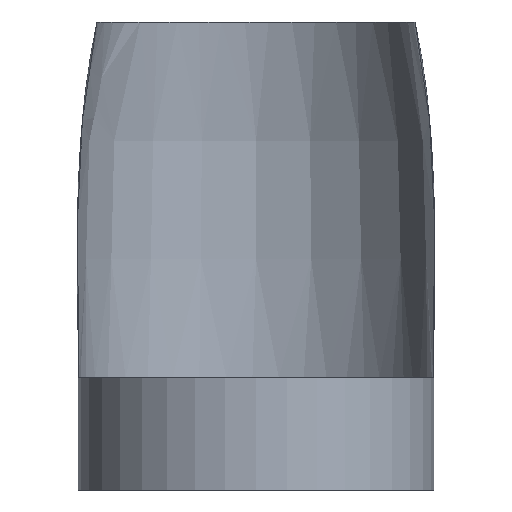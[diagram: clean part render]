
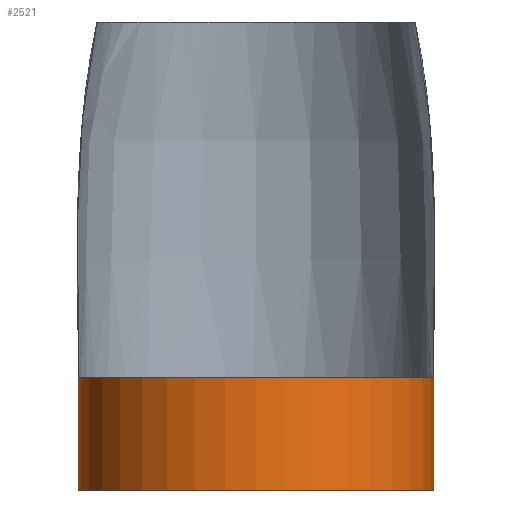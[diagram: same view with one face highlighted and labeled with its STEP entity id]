
A CAD part, front view. The second image highlights one B-rep face of the part: STEP entity #2521.
In plain terms, the highlighted cylindrical face has radius 9.5 mm (diameter 19 mm), a partial arc.
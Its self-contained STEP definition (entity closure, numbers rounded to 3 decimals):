
#600 = PLANE('',#601);
#601 = AXIS2_PLACEMENT_3D('',#602,#603,#604);
#602 = CARTESIAN_POINT('',(-9.5,0.,6.));
#603 = DIRECTION('',(0.,0.,1.));
#604 = DIRECTION('',(1.,0.,0.));
#1408 = PLANE('',#1409);
#1409 = AXIS2_PLACEMENT_3D('',#1410,#1411,#1412);
#1410 = CARTESIAN_POINT('',(9.5,13.,0.));
#1411 = DIRECTION('',(0.,0.,1.));
#1412 = DIRECTION('',(1.,0.,0.));
#2210 = VERTEX_POINT('',#2211);
#2211 = CARTESIAN_POINT('',(-9.5,0.,6.));
#2227 = PLANE('',#2228);
#2228 = AXIS2_PLACEMENT_3D('',#2229,#2230,#2231);
#2229 = CARTESIAN_POINT('',(-9.5,0.,0.));
#2230 = DIRECTION('',(-1.,0.,0.));
#2231 = DIRECTION('',(0.,1.,0.));
#2239 = EDGE_CURVE('',#2210,#2240,#2242,.T.);
#2240 = VERTEX_POINT('',#2241);
#2241 = CARTESIAN_POINT('',(9.5,0.,6.));
#2242 = SURFACE_CURVE('',#2243,(#2248,#2255),.PCURVE_S1.);
#2243 = CIRCLE('',#2244,9.5);
#2244 = AXIS2_PLACEMENT_3D('',#2245,#2246,#2247);
#2245 = CARTESIAN_POINT('',(0.,0.,6.));
#2246 = DIRECTION('',(0.,0.,1.));
#2247 = DIRECTION('',(1.,0.,0.));
#2248 = PCURVE('',#600,#2249);
#2249 = DEFINITIONAL_REPRESENTATION('',(#2250),#2254);
#2250 = CIRCLE('',#2251,9.5);
#2251 = AXIS2_PLACEMENT_2D('',#2252,#2253);
#2252 = CARTESIAN_POINT('',(9.5,0.));
#2253 = DIRECTION('',(1.,0.));
#2254 = ( GEOMETRIC_REPRESENTATION_CONTEXT(2) 
PARAMETRIC_REPRESENTATION_CONTEXT() REPRESENTATION_CONTEXT('2D SPACE',''
  ) );
#2255 = PCURVE('',#2256,#2261);
#2256 = CYLINDRICAL_SURFACE('',#2257,9.5);
#2257 = AXIS2_PLACEMENT_3D('',#2258,#2259,#2260);
#2258 = CARTESIAN_POINT('',(0.,0.,0.));
#2259 = DIRECTION('',(-0.,-0.,-1.));
#2260 = DIRECTION('',(1.,0.,0.));
#2261 = DEFINITIONAL_REPRESENTATION('',(#2262),#2266);
#2262 = LINE('',#2263,#2264);
#2263 = CARTESIAN_POINT('',(-0.,-6.));
#2264 = VECTOR('',#2265,1.);
#2265 = DIRECTION('',(-1.,0.));
#2266 = ( GEOMETRIC_REPRESENTATION_CONTEXT(2) 
PARAMETRIC_REPRESENTATION_CONTEXT() REPRESENTATION_CONTEXT('2D SPACE',''
  ) );
#2284 = PLANE('',#2285);
#2285 = AXIS2_PLACEMENT_3D('',#2286,#2287,#2288);
#2286 = CARTESIAN_POINT('',(9.5,10.,0.));
#2287 = DIRECTION('',(1.,0.,0.));
#2288 = DIRECTION('',(0.,-1.,0.));
#2427 = EDGE_CURVE('',#2428,#2210,#2430,.T.);
#2428 = VERTEX_POINT('',#2429);
#2429 = CARTESIAN_POINT('',(-9.5,0.,0.));
#2430 = SURFACE_CURVE('',#2431,(#2435,#2442),.PCURVE_S1.);
#2431 = LINE('',#2432,#2433);
#2432 = CARTESIAN_POINT('',(-9.5,0.,0.));
#2433 = VECTOR('',#2434,1.);
#2434 = DIRECTION('',(0.,0.,1.));
#2435 = PCURVE('',#2227,#2436);
#2436 = DEFINITIONAL_REPRESENTATION('',(#2437),#2441);
#2437 = LINE('',#2438,#2439);
#2438 = CARTESIAN_POINT('',(0.,0.));
#2439 = VECTOR('',#2440,1.);
#2440 = DIRECTION('',(0.,-1.));
#2441 = ( GEOMETRIC_REPRESENTATION_CONTEXT(2) 
PARAMETRIC_REPRESENTATION_CONTEXT() REPRESENTATION_CONTEXT('2D SPACE',''
  ) );
#2442 = PCURVE('',#2256,#2443);
#2443 = DEFINITIONAL_REPRESENTATION('',(#2444),#2448);
#2444 = LINE('',#2445,#2446);
#2445 = CARTESIAN_POINT('',(-3.142,0.));
#2446 = VECTOR('',#2447,1.);
#2447 = DIRECTION('',(-0.,-1.));
#2448 = ( GEOMETRIC_REPRESENTATION_CONTEXT(2) 
PARAMETRIC_REPRESENTATION_CONTEXT() REPRESENTATION_CONTEXT('2D SPACE',''
  ) );
#2478 = EDGE_CURVE('',#2479,#2240,#2481,.T.);
#2479 = VERTEX_POINT('',#2480);
#2480 = CARTESIAN_POINT('',(9.5,0.,0.));
#2481 = SURFACE_CURVE('',#2482,(#2486,#2493),.PCURVE_S1.);
#2482 = LINE('',#2483,#2484);
#2483 = CARTESIAN_POINT('',(9.5,0.,0.));
#2484 = VECTOR('',#2485,1.);
#2485 = DIRECTION('',(0.,0.,1.));
#2486 = PCURVE('',#2284,#2487);
#2487 = DEFINITIONAL_REPRESENTATION('',(#2488),#2492);
#2488 = LINE('',#2489,#2490);
#2489 = CARTESIAN_POINT('',(10.,0.));
#2490 = VECTOR('',#2491,1.);
#2491 = DIRECTION('',(0.,-1.));
#2492 = ( GEOMETRIC_REPRESENTATION_CONTEXT(2) 
PARAMETRIC_REPRESENTATION_CONTEXT() REPRESENTATION_CONTEXT('2D SPACE',''
  ) );
#2493 = PCURVE('',#2256,#2494);
#2494 = DEFINITIONAL_REPRESENTATION('',(#2495),#2499);
#2495 = LINE('',#2496,#2497);
#2496 = CARTESIAN_POINT('',(-6.283,0.));
#2497 = VECTOR('',#2498,1.);
#2498 = DIRECTION('',(-0.,-1.));
#2499 = ( GEOMETRIC_REPRESENTATION_CONTEXT(2) 
PARAMETRIC_REPRESENTATION_CONTEXT() REPRESENTATION_CONTEXT('2D SPACE',''
  ) );
#2521 = ADVANCED_FACE('',(#2522),#2256,.T.);
#2522 = FACE_BOUND('',#2523,.F.);
#2523 = EDGE_LOOP('',(#2524,#2525,#2526,#2527));
#2524 = ORIENTED_EDGE('',*,*,#2427,.T.);
#2525 = ORIENTED_EDGE('',*,*,#2239,.T.);
#2526 = ORIENTED_EDGE('',*,*,#2478,.F.);
#2527 = ORIENTED_EDGE('',*,*,#2528,.F.);
#2528 = EDGE_CURVE('',#2428,#2479,#2529,.T.);
#2529 = SURFACE_CURVE('',#2530,(#2535,#2542),.PCURVE_S1.);
#2530 = CIRCLE('',#2531,9.5);
#2531 = AXIS2_PLACEMENT_3D('',#2532,#2533,#2534);
#2532 = CARTESIAN_POINT('',(0.,0.,0.));
#2533 = DIRECTION('',(0.,0.,1.));
#2534 = DIRECTION('',(1.,0.,0.));
#2535 = PCURVE('',#2256,#2536);
#2536 = DEFINITIONAL_REPRESENTATION('',(#2537),#2541);
#2537 = LINE('',#2538,#2539);
#2538 = CARTESIAN_POINT('',(-0.,0.));
#2539 = VECTOR('',#2540,1.);
#2540 = DIRECTION('',(-1.,0.));
#2541 = ( GEOMETRIC_REPRESENTATION_CONTEXT(2) 
PARAMETRIC_REPRESENTATION_CONTEXT() REPRESENTATION_CONTEXT('2D SPACE',''
  ) );
#2542 = PCURVE('',#1408,#2543);
#2543 = DEFINITIONAL_REPRESENTATION('',(#2544),#2548);
#2544 = CIRCLE('',#2545,9.5);
#2545 = AXIS2_PLACEMENT_2D('',#2546,#2547);
#2546 = CARTESIAN_POINT('',(-9.5,-13.));
#2547 = DIRECTION('',(1.,0.));
#2548 = ( GEOMETRIC_REPRESENTATION_CONTEXT(2) 
PARAMETRIC_REPRESENTATION_CONTEXT() REPRESENTATION_CONTEXT('2D SPACE',''
  ) );
